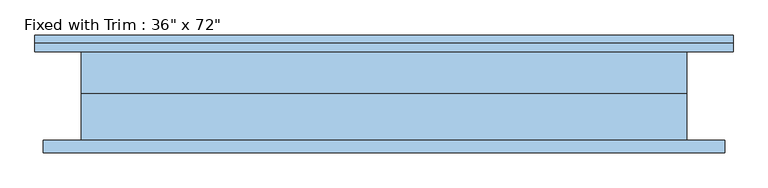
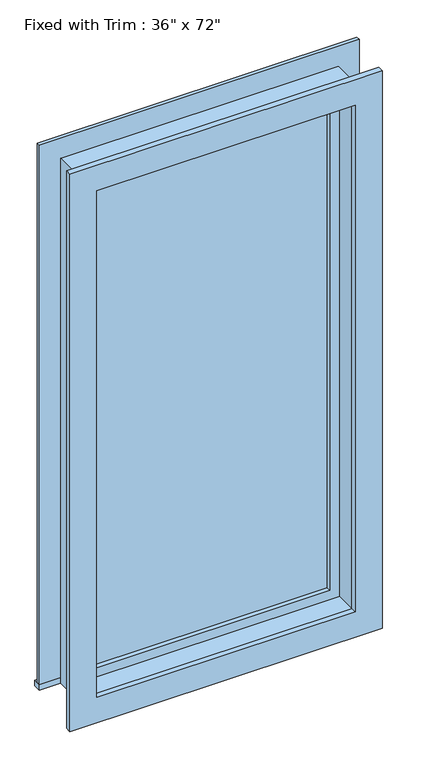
"""IFC4 building model written with IfcOpenShell, lengths in millimetres: window geometry."""

from ifc_helpers import new_model, si_unit, frame, origin, place, context, project, spatial, polyline, outline, extrude, source, transform, mapped, element, save


def window_19b24cb0(model_context):
    return source(origin(), model_context, "Body", "SweptSolid", [
        extrude(outline(polyline([(-565.15, 92.075), (488.95, 92.075), (488.95, 66.675), (-565.15, 66.675), (-565.15, 92.075)])), frame((0.0, 0.0, 304.8), z_axis=(0.0, 0.0, 1.0), x_axis=(1.0, 0.0, 0.0)), (0.0, 0.0, 1.0), 19.05),
        extrude(outline(polyline([(2114.55, -476.25), (2114.55, 400.05), (323.85, 400.05), (323.85, 488.95), (2203.45, 488.95), (2203.45, -565.15), (323.85, -565.15), (323.85, -476.25), (2114.55, -476.25)])), frame((0.0, 66.675, 0.0), z_axis=(0.0, 1.0, 0.0), x_axis=(0.0, 0.0, 1.0)), (0.0, 0.0, 1.0), 12.7),
        extrude(outline(polyline([(2190.75, 476.25), (2190.75, -552.45), (247.65, -552.45), (247.65, 476.25), (2190.75, 476.25)]), holes=[polyline([(2101.85, 387.35), (336.55, 387.35), (336.55, -463.55), (2101.85, -463.55), (2101.85, 387.35)])]), frame((0.0, -85.725, 0.0), z_axis=(0.0, 1.0, 0.0), x_axis=(0.0, 0.0, 1.0)), (0.0, 0.0, 1.0), 19.05),
        extrude(outline(polyline([(355.6, 19.05), (-431.8, 19.05), (-431.8, 31.75), (355.6, 31.75), (355.6, 19.05)])), frame((0.0, 0.0, 368.3), z_axis=(0.0, 0.0, 1.0), x_axis=(1.0, 0.0, 0.0)), (0.0, 0.0, 1.0), 1701.8),
        extrude(outline(polyline([(2114.55, -476.25), (323.85, -476.25), (323.85, 400.05), (2114.55, 400.05), (2114.55, -476.25)]), holes=[polyline([(2070.1, -431.8), (2070.1, 355.6), (368.3, 355.6), (368.3, -431.8), (2070.1, -431.8)])]), frame((0.0, 3.175, 0.0), z_axis=(0.0, 1.0, 0.0), x_axis=(0.0, 0.0, 1.0)), (0.0, 0.0, 1.0), 44.45),
        extrude(outline(polyline([(2133.6, -495.3), (304.8, -495.3), (304.8, 419.1), (2133.6, 419.1), (2133.6, -495.3)]), holes=[polyline([(2101.85, -463.55), (2101.85, 387.35), (336.55, 387.35), (336.55, -463.55), (2101.85, -463.55)])]), frame((0.0, -66.675, 0.0), z_axis=(0.0, 1.0, 0.0), x_axis=(0.0, 0.0, 1.0)), (0.0, 0.0, 1.0), 69.85),
        extrude(outline(polyline([(2133.6, 419.1), (2133.6, -495.3), (304.8, -495.3), (304.8, 419.1), (2133.6, 419.1)]), holes=[polyline([(2114.55, 400.05), (323.85, 400.05), (323.85, -476.25), (2114.55, -476.25), (2114.55, 400.05)])]), frame((0.0, 3.175, 0.0), z_axis=(0.0, 1.0, 0.0), x_axis=(0.0, 0.0, 1.0)), (0.0, 0.0, 1.0), 63.5),
    ])


if __name__ == "__main__":
    model = new_model("IFC4")
    model_context = context("Model", 3, world=origin())
    ifc_project = project(units=[si_unit("LENGTHUNIT", "METRE", prefix="MILLI")], contexts=[model_context])
    site = spatial("IfcSite", under=ifc_project)
    building = spatial("IfcBuilding", under=site)
    placement = place(None, origin())
    window_shape = window_19b24cb0(model_context)
    element("IfcWindow", 1, ObjectType="Fixed with Trim : 36\" x 72\"", at=placement, inside=building, context=model_context, shape_type="MappedRepresentation", body=[
        mapped(window_shape, transform((0.0, 0.0, 0.0), x_axis=(1.0, 0.0, 0.0), y_axis=(0.0, 1.0, 0.0), z_axis=(0.0, 0.0, 1.0))),
    ])
    save(model, "model.ifc")
